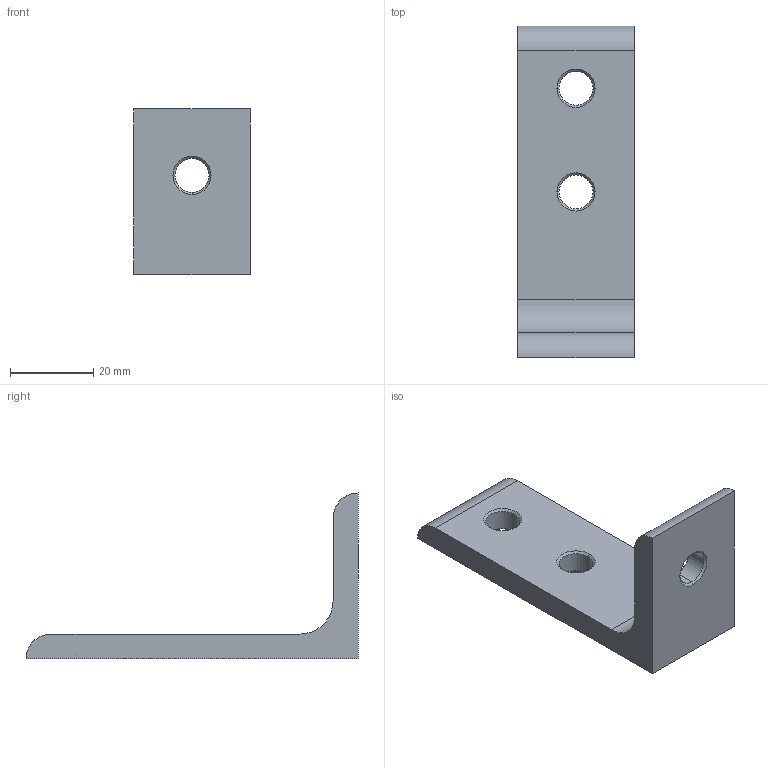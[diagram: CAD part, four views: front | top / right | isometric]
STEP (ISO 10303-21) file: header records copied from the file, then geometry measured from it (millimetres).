
FILE_DESCRIPTION (( 'STEP AP203' ), '1' );
FILE_NAME ('113030AL.STEP', '2017-04-27T09:51:42', ( '' ), ( '' ), 'SwSTEP 2.0', 'SolidWorks 2014', '' );
FILE_SCHEMA (( 'CONFIG_CONTROL_DESIGN' ));
Length unit declared in the file: millimetre
Products named in the file (1): 113030AL
Bounding box: 28 x 80 x 40 mm (x, y, z)
Volume: 18133.2 mm3; surface area: 7947.7 mm2
Topology: 1 solids, 1 shells, 27 faces, 63 edges, 38 vertices
Faces by surface type: cone 12, cylinder 9, plane 6
Entity records: 860 total; most frequent: DIRECTION 149, CARTESIAN_POINT 129, ORIENTED_EDGE 126, EDGE_CURVE 63, AXIS2_PLACEMENT_3D 58, VERTEX_POINT 38, VECTOR 33, EDGE_LOOP 33
